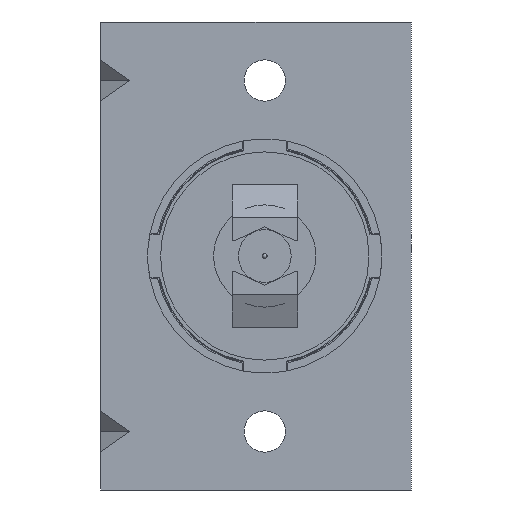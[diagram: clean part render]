
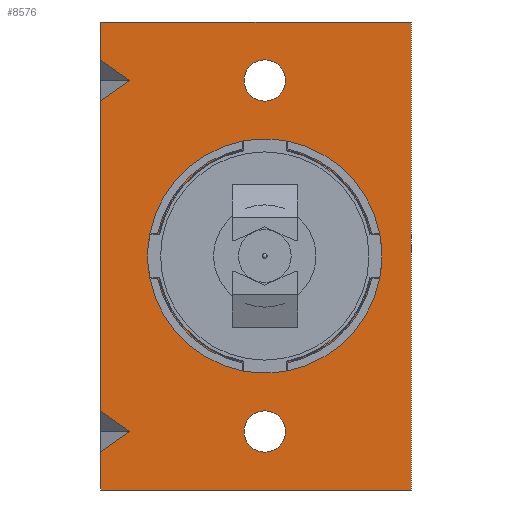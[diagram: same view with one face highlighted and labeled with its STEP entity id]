
A CAD part, left-side view. The second image highlights one B-rep face of the part: STEP entity #8576.
In plain terms, the highlighted planar face has unit normal (-1, 0, 0).
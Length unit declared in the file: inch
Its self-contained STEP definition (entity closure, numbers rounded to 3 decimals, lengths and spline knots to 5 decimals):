
#8284=CARTESIAN_POINT('',(0.,0.,1.6623));
#8285=VERTEX_POINT('',#8284);
#8292=CARTESIAN_POINT('',(0.,0.12402,1.75));
#8293=VERTEX_POINT('',#8292);
#8300=CARTESIAN_POINT('',(0.,0.0,1.6623));
#8301=DIRECTION('',(0.,0.816,0.577));
#8302=VECTOR('',#8301,0.1519);
#8303=LINE('',#8300,#8302);
#8304=EDGE_CURVE('',#8285,#8293,#8303,.T.);
#8314=CARTESIAN_POINT('',(0.,0.,1.8377));
#8315=VERTEX_POINT('',#8314);
#8322=CARTESIAN_POINT('',(0.,0.12402,1.75));
#8323=DIRECTION('',(0.,-0.816,0.577));
#8324=VECTOR('',#8323,0.1519);
#8325=LINE('',#8322,#8324);
#8326=EDGE_CURVE('',#8293,#8315,#8325,.T.);
#8339=CARTESIAN_POINT('',(0.,0.,0.3377));
#8340=VERTEX_POINT('',#8339);
#8341=CARTESIAN_POINT('',(0.0,0.0,0.3377));
#8342=DIRECTION('',(0.0,0.0,1.0));
#8343=VECTOR('',#8342,1.3246);
#8344=LINE('',#8341,#8343);
#8345=EDGE_CURVE('',#8340,#8285,#8344,.T.);
#8355=CARTESIAN_POINT('',(0.,0.,0.1623));
#8356=VERTEX_POINT('',#8355);
#8363=CARTESIAN_POINT('',(0.0,0.0,0.0));
#8364=VERTEX_POINT('',#8363);
#8365=CARTESIAN_POINT('',(0.0,0.0,0.0));
#8366=DIRECTION('',(0.0,0.0,1.0));
#8367=VECTOR('',#8366,0.1623);
#8368=LINE('',#8365,#8367);
#8369=EDGE_CURVE('',#8364,#8356,#8368,.T.);
#8387=CARTESIAN_POINT('',(0.0,0.0,2.0));
#8388=VERTEX_POINT('',#8387);
#8395=CARTESIAN_POINT('',(0.0,0.0,1.8377));
#8396=DIRECTION('',(0.0,0.0,1.0));
#8397=VECTOR('',#8396,0.1623);
#8398=LINE('',#8395,#8397);
#8399=EDGE_CURVE('',#8315,#8388,#8398,.T.);
#8449=CARTESIAN_POINT('',(0.,0.12402,0.25));
#8450=VERTEX_POINT('',#8449);
#8451=CARTESIAN_POINT('',(0.,0.12402,0.25));
#8452=DIRECTION('',(0.,-0.816,0.577));
#8453=VECTOR('',#8452,0.1519);
#8454=LINE('',#8451,#8453);
#8455=EDGE_CURVE('',#8450,#8340,#8454,.T.);
#8473=CARTESIAN_POINT('',(0.,0.,0.1623));
#8474=DIRECTION('',(0.,0.816,0.577));
#8475=VECTOR('',#8474,0.1519);
#8476=LINE('',#8473,#8475);
#8477=EDGE_CURVE('',#8356,#8450,#8476,.T.);
#8499=CARTESIAN_POINT('',(0.,1.325,0.0));
#8500=DIRECTION('',(-1.0,0.0,0.0));
#8501=DIRECTION('',(0.0,-1.0,0.0));
#8502=AXIS2_PLACEMENT_3D('',#8499,#8500,#8501);
#8503=PLANE('',#8502);
#8504=ORIENTED_EDGE('',*,*,#8326,.T.);
#8505=ORIENTED_EDGE('',*,*,#8399,.T.);
#8506=CARTESIAN_POINT('',(0.,1.325,2.0));
#8507=VERTEX_POINT('',#8506);
#8508=CARTESIAN_POINT('',(0.,1.325,2.0));
#8509=DIRECTION('',(0.0,-1.0,0.0));
#8510=VECTOR('',#8509,1.325);
#8511=LINE('',#8508,#8510);
#8512=EDGE_CURVE('',#8507,#8388,#8511,.T.);
#8513=ORIENTED_EDGE('',*,*,#8512,.F.);
#8514=CARTESIAN_POINT('',(0.,1.325,0.0));
#8515=VERTEX_POINT('',#8514);
#8516=CARTESIAN_POINT('',(0.,1.325,0.0));
#8517=DIRECTION('',(0.0,0.0,1.0));
#8518=VECTOR('',#8517,2.0);
#8519=LINE('',#8516,#8518);
#8520=EDGE_CURVE('',#8515,#8507,#8519,.T.);
#8521=ORIENTED_EDGE('',*,*,#8520,.F.);
#8522=CARTESIAN_POINT('',(0.,1.325,0.0));
#8523=DIRECTION('',(0.0,-1.0,0.0));
#8524=VECTOR('',#8523,1.325);
#8525=LINE('',#8522,#8524);
#8526=EDGE_CURVE('',#8515,#8364,#8525,.T.);
#8527=ORIENTED_EDGE('',*,*,#8526,.T.);
#8528=ORIENTED_EDGE('',*,*,#8369,.T.);
#8529=ORIENTED_EDGE('',*,*,#8477,.T.);
#8530=ORIENTED_EDGE('',*,*,#8455,.T.);
#8531=ORIENTED_EDGE('',*,*,#8345,.T.);
#8532=ORIENTED_EDGE('',*,*,#8304,.T.);
#8533=EDGE_LOOP('',(#8504,#8505,#8513,#8521,#8527,#8528,#8529,#8530,#8531,#8532));
#8534=FACE_OUTER_BOUND('',#8533,.T.);
#8535=CARTESIAN_POINT('',(0.,0.6115,1.75));
#8536=VERTEX_POINT('',#8535);
#8537=CARTESIAN_POINT('',(0.0,0.7,1.75));
#8538=DIRECTION('',(1.0,0.0,0.0));
#8539=DIRECTION('',(0.0,1.0,0.0));
#8540=AXIS2_PLACEMENT_3D('',#8537,#8538,#8539);
#8541=CIRCLE('',#8540,0.0885);
#8542=EDGE_CURVE('',#8536,#8536,#8541,.T.);
#8543=ORIENTED_EDGE('',*,*,#8542,.T.);
#8544=EDGE_LOOP('',(#8543));
#8545=FACE_BOUND('',#8544,.T.);
#8546=CARTESIAN_POINT('',(0.,0.6115,0.25));
#8547=VERTEX_POINT('',#8546);
#8548=CARTESIAN_POINT('',(0.0,0.7,0.25));
#8549=DIRECTION('',(1.0,0.0,0.0));
#8550=DIRECTION('',(0.0,1.0,0.0));
#8551=AXIS2_PLACEMENT_3D('',#8548,#8549,#8550);
#8552=CIRCLE('',#8551,0.0885);
#8553=EDGE_CURVE('',#8547,#8547,#8552,.T.);
#8554=ORIENTED_EDGE('',*,*,#8553,.T.);
#8555=EDGE_LOOP('',(#8554));
#8556=FACE_BOUND('',#8555,.T.);
#8557=CARTESIAN_POINT('',(0.,1.0355,0.8163));
#8558=VERTEX_POINT('',#8557);
#8559=CARTESIAN_POINT('',(0.,1.0355,1.1837));
#8560=VERTEX_POINT('',#8559);
#8561=CARTESIAN_POINT('',(0.,1.0355,0.8163));
#8562=DIRECTION('',(0.0,0.0,1.0));
#8563=VECTOR('',#8562,0.3674);
#8564=LINE('',#8561,#8563);
#8565=EDGE_CURVE('',#8558,#8560,#8564,.T.);
#8566=ORIENTED_EDGE('',*,*,#8565,.T.);
#8567=CARTESIAN_POINT('',(0.,0.7,1.0));
#8568=DIRECTION('',(1.0,0.0,0.0));
#8569=DIRECTION('',(0.0,-0.877,-0.48));
#8570=AXIS2_PLACEMENT_3D('',#8567,#8568,#8569);
#8571=CIRCLE('',#8570,0.3825);
#8572=EDGE_CURVE('',#8560,#8558,#8571,.T.);
#8573=ORIENTED_EDGE('',*,*,#8572,.T.);
#8574=EDGE_LOOP('',(#8566,#8573));
#8575=FACE_BOUND('',#8574,.T.);
#8576=ADVANCED_FACE('',(#8534,#8545,#8556,#8575),#8503,.T.);
